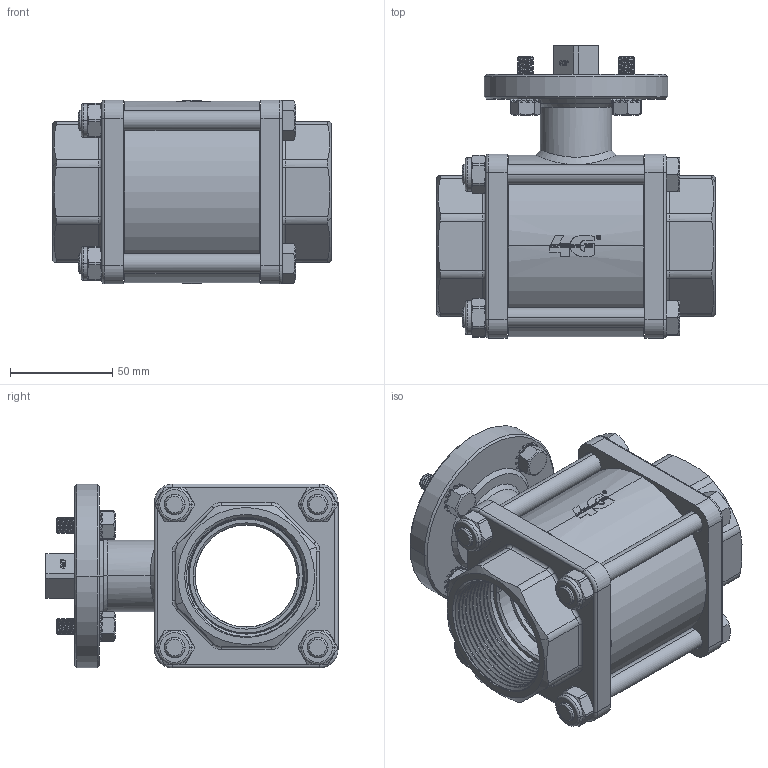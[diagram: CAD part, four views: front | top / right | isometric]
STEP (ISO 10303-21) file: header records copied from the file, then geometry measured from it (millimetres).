
FILE_DESCRIPTION((''),'2;1');
FILE_NAME('5030046381F_SW0001','2024-12-20T09:44:47',('tecnico2'),('CDM Tecnoconsulting'),'CREO PARAMETRIC BY PTC INC, 2024063','CREO PARAMETRIC BY PTC INC, 2024063','');
FILE_SCHEMA(('CONFIG_CONTROL_DESIGN','SHAPE_APPEARANCE_LAYERS_GROUPS'));
Length unit declared in the file: millimetre
Products named in the file (1): 5030046381F_SW0001
Bounding box: 136.5 x 143 x 90 mm (x, y, z)
Volume: 551623.7 mm3; surface area: 175353.9 mm2
Topology: 2 solids, 2 shells, 1783 faces, 4878 edges, 3153 vertices
Faces by surface type: plane 652, cylinder 547, cone 276, bspline 147, extrusion 107, torus 50, sphere 4
Entity records: 137897 total; most frequent: CARTESIAN_POINT 80649, ORIENTED_EDGE 9740, DIRECTION 7364, PRESENTATION_STYLE_ASSIGNMENT 4920, STYLED_ITEM 4872, CURVE_STYLE 4870, EDGE_CURVE 4870, VERTEX_POINT 3153
